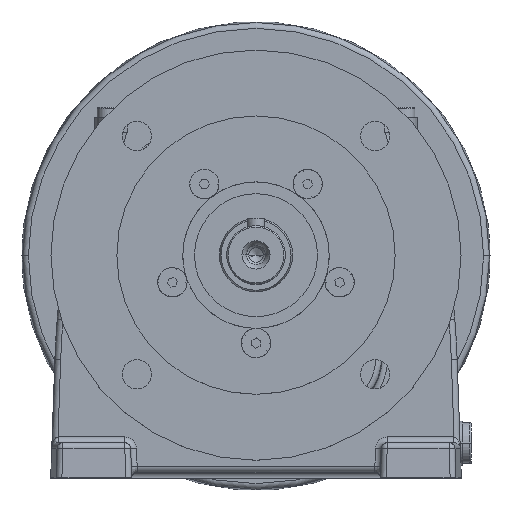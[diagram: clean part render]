
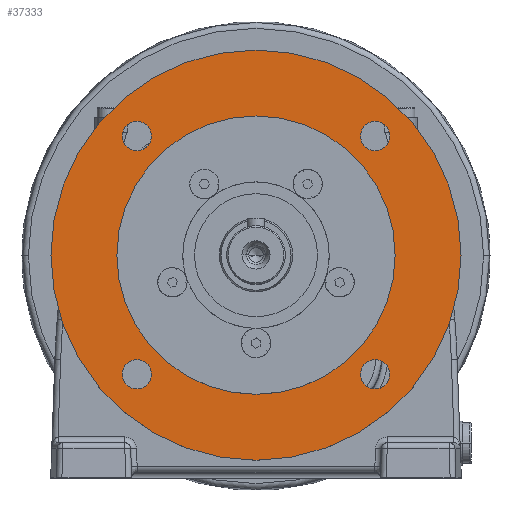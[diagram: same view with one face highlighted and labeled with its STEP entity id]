
A CAD part, top view. The second image highlights one B-rep face of the part: STEP entity #37333.
In plain terms, the highlighted planar face has unit normal (0, 0, 1).
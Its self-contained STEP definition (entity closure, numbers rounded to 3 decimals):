
#5707 = ORIENTED_EDGE ( 'NONE', *, *, #37260, .F. ) ;
#36534 = VERTEX_POINT ( 'NONE', #45484 ) ;
#36540 = EDGE_CURVE ( 'NONE', #36534, #36543, #45479, .T. ) ;
#36543 = VERTEX_POINT ( 'NONE', #45469 ) ;
#36746 = VERTEX_POINT ( 'NONE', #45898 ) ;
#36752 = EDGE_CURVE ( 'NONE', #36746, #36755, #45893, .T. ) ;
#36755 = VERTEX_POINT ( 'NONE', #45887 ) ;
#37068 = VERTEX_POINT ( 'NONE', #46262 ) ;
#37073 = EDGE_CURVE ( 'NONE', #37068, #37076, #46405, .T. ) ;
#37076 = VERTEX_POINT ( 'NONE', #46398 ) ;
#37229 = VERTEX_POINT ( 'NONE', #46480 ) ;
#37235 = EDGE_CURVE ( 'NONE', #37239, #37229, #46479, .T. ) ;
#37239 = VERTEX_POINT ( 'NONE', #46473 ) ;
#37260 = EDGE_CURVE ( 'NONE', #37264, #37267, #46519, .T. ) ;
#37264 = VERTEX_POINT ( 'NONE', #46574 ) ;
#37267 = VERTEX_POINT ( 'NONE', #46573 ) ;
#37287 = VERTEX_POINT ( 'NONE', #46561 ) ;
#37293 = EDGE_CURVE ( 'NONE', #37287, #37296, #46560, .T. ) ;
#37296 = VERTEX_POINT ( 'NONE', #46555 ) ;
#37306 = EDGE_LOOP ( 'NONE', ( #5707, #37485 ) ) ;
#37333 = ADVANCED_FACE ( 'NONE', ( #46596, #46595, #46594, #46593, #46592, #46591 ), #46575, .F. ) ;
#37338 = EDGE_LOOP ( 'NONE', ( #37341, #37347 ) ) ;
#37341 = ORIENTED_EDGE ( 'NONE', *, *, #37344, .F. ) ;
#37344 = EDGE_CURVE ( 'NONE', #36543, #36534, #46637, .T. ) ;
#37347 = ORIENTED_EDGE ( 'NONE', *, *, #36540, .F. ) ;
#37485 = ORIENTED_EDGE ( 'NONE', *, *, #37488, .F. ) ;
#37488 = EDGE_CURVE ( 'NONE', #37267, #37264, #46736, .T. ) ;
#37493 = EDGE_LOOP ( 'NONE', ( #37496, #37503 ) ) ;
#37496 = ORIENTED_EDGE ( 'NONE', *, *, #37499, .F. ) ;
#37499 = EDGE_CURVE ( 'NONE', #37296, #37287, #46731, .T. ) ;
#37503 = ORIENTED_EDGE ( 'NONE', *, *, #37293, .F. ) ;
#37534 = EDGE_LOOP ( 'NONE', ( #37536, #37542 ) ) ;
#37536 = ORIENTED_EDGE ( 'NONE', *, *, #37539, .F. ) ;
#37539 = EDGE_CURVE ( 'NONE', #36755, #36746, #46715, .T. ) ;
#37542 = ORIENTED_EDGE ( 'NONE', *, *, #36752, .F. ) ;
#37547 = EDGE_LOOP ( 'NONE', ( #37550, #37556 ) ) ;
#37550 = ORIENTED_EDGE ( 'NONE', *, *, #37553, .F. ) ;
#37553 = EDGE_CURVE ( 'NONE', #37076, #37068, #46709, .T. ) ;
#37556 = ORIENTED_EDGE ( 'NONE', *, *, #37073, .F. ) ;
#37561 = EDGE_LOOP ( 'NONE', ( #37564, #37567 ) ) ;
#37564 = ORIENTED_EDGE ( 'NONE', *, *, #37235, .T. ) ;
#37567 = ORIENTED_EDGE ( 'NONE', *, *, #37570, .T. ) ;
#37570 = EDGE_CURVE ( 'NONE', #37229, #37239, #46773, .T. ) ;
#45344 = DIRECTION ( 'NONE',  ( 0., 0., 1. ) ) ;
#45346 = CARTESIAN_POINT ( 'NONE',  ( -40.659, -40.659, -3. ) ) ;
#45469 = CARTESIAN_POINT ( 'NONE',  ( 45.659, 40.659, -3. ) ) ;
#45472 = DIRECTION ( 'NONE',  ( 1., 0., 0. ) ) ;
#45474 = DIRECTION ( 'NONE',  ( 0., 0., 1. ) ) ;
#45476 = CARTESIAN_POINT ( 'NONE',  ( 40.659, 40.659, -3. ) ) ;
#45477 = AXIS2_PLACEMENT_3D ( 'NONE', #45476, #45474, #45472 ) ;
#45479 = CIRCLE ( 'NONE', #45477, 5. ) ;
#45484 = CARTESIAN_POINT ( 'NONE',  ( 35.659, 40.659, -3. ) ) ;
#45849 = DIRECTION ( 'NONE',  ( 1., 0., 0. ) ) ;
#45887 = CARTESIAN_POINT ( 'NONE',  ( -35.659, 40.659, -3. ) ) ;
#45889 = DIRECTION ( 'NONE',  ( 1., 0., 0. ) ) ;
#45890 = DIRECTION ( 'NONE',  ( 0., 0., 1. ) ) ;
#45891 = CARTESIAN_POINT ( 'NONE',  ( -40.659, 40.659, -3. ) ) ;
#45892 = AXIS2_PLACEMENT_3D ( 'NONE', #45891, #45890, #45889 ) ;
#45893 = CIRCLE ( 'NONE', #45892, 5. ) ;
#45898 = CARTESIAN_POINT ( 'NONE',  ( -45.659, 40.659, -3. ) ) ;
#46262 = CARTESIAN_POINT ( 'NONE',  ( -45.659, -40.659, -3. ) ) ;
#46263 = CARTESIAN_POINT ( 'NONE',  ( -40.659, -40.659, -3. ) ) ;
#46398 = CARTESIAN_POINT ( 'NONE',  ( -35.659, -40.659, -3. ) ) ;
#46400 = DIRECTION ( 'NONE',  ( 1., 0., 0. ) ) ;
#46402 = DIRECTION ( 'NONE',  ( 0., 0., 1. ) ) ;
#46404 = AXIS2_PLACEMENT_3D ( 'NONE', #46263, #46402, #46400 ) ;
#46405 = CIRCLE ( 'NONE', #46404, 5. ) ;
#46473 = CARTESIAN_POINT ( 'NONE',  ( 70., 0., -3. ) ) ;
#46474 = DIRECTION ( 'NONE',  ( 1., 0., 0. ) ) ;
#46476 = DIRECTION ( 'NONE',  ( 0., 0., 1. ) ) ;
#46477 = CARTESIAN_POINT ( 'NONE',  ( 0., 0., -3. ) ) ;
#46478 = AXIS2_PLACEMENT_3D ( 'NONE', #46477, #46476, #46474 ) ;
#46479 = CIRCLE ( 'NONE', #46478, 70. ) ;
#46480 = CARTESIAN_POINT ( 'NONE',  ( -70., 0., -3. ) ) ;
#46516 = DIRECTION ( 'NONE',  ( 1., 0., 0. ) ) ;
#46517 = DIRECTION ( 'NONE',  ( 0., 0., 1. ) ) ;
#46518 = AXIS2_PLACEMENT_3D ( 'NONE', #46524, #46517, #46516 ) ;
#46519 = CIRCLE ( 'NONE', #46518, 47.5 ) ;
#46524 = CARTESIAN_POINT ( 'NONE',  ( 0., 0., -3. ) ) ;
#46555 = CARTESIAN_POINT ( 'NONE',  ( 45.659, -40.659, -3. ) ) ;
#46556 = DIRECTION ( 'NONE',  ( 1., 0., 0. ) ) ;
#46557 = DIRECTION ( 'NONE',  ( 0., 0., 1. ) ) ;
#46558 = CARTESIAN_POINT ( 'NONE',  ( 40.659, -40.659, -3. ) ) ;
#46559 = AXIS2_PLACEMENT_3D ( 'NONE', #46558, #46557, #46556 ) ;
#46560 = CIRCLE ( 'NONE', #46559, 5. ) ;
#46561 = CARTESIAN_POINT ( 'NONE',  ( 35.659, -40.659, -3. ) ) ;
#46573 = CARTESIAN_POINT ( 'NONE',  ( -47.5, 0., -3. ) ) ;
#46574 = CARTESIAN_POINT ( 'NONE',  ( 47.5, 0., -3. ) ) ;
#46575 = PLANE ( 'NONE',  #46642 ) ;
#46591 = FACE_BOUND ( 'NONE', #37493, .T. ) ;
#46592 = FACE_BOUND ( 'NONE', #37306, .T. ) ;
#46593 = FACE_OUTER_BOUND ( 'NONE', #37561, .T. ) ;
#46594 = FACE_BOUND ( 'NONE', #37547, .T. ) ;
#46595 = FACE_BOUND ( 'NONE', #37534, .T. ) ;
#46596 = FACE_BOUND ( 'NONE', #37338, .T. ) ;
#46633 = DIRECTION ( 'NONE',  ( 1., 0., 0. ) ) ;
#46634 = DIRECTION ( 'NONE',  ( 0., 0., 1. ) ) ;
#46635 = CARTESIAN_POINT ( 'NONE',  ( 40.659, 40.659, -3. ) ) ;
#46636 = AXIS2_PLACEMENT_3D ( 'NONE', #46635, #46634, #46633 ) ;
#46637 = CIRCLE ( 'NONE', #46636, 5. ) ;
#46639 = DIRECTION ( 'NONE',  ( -1., 0., 0. ) ) ;
#46640 = DIRECTION ( 'NONE',  ( 0., 0., -1. ) ) ;
#46641 = CARTESIAN_POINT ( 'NONE',  ( 0., 47.5, -3. ) ) ;
#46642 = AXIS2_PLACEMENT_3D ( 'NONE', #46641, #46640, #46639 ) ;
#46708 = AXIS2_PLACEMENT_3D ( 'NONE', #45346, #45344, #45849 ) ;
#46709 = CIRCLE ( 'NONE', #46708, 5. ) ;
#46711 = DIRECTION ( 'NONE',  ( 1., 0., 0. ) ) ;
#46712 = DIRECTION ( 'NONE',  ( 0., 0., 1. ) ) ;
#46713 = CARTESIAN_POINT ( 'NONE',  ( -40.659, 40.659, -3. ) ) ;
#46714 = AXIS2_PLACEMENT_3D ( 'NONE', #46713, #46712, #46711 ) ;
#46715 = CIRCLE ( 'NONE', #46714, 5. ) ;
#46727 = DIRECTION ( 'NONE',  ( 1., 0., 0. ) ) ;
#46728 = DIRECTION ( 'NONE',  ( 0., 0., 1. ) ) ;
#46729 = CARTESIAN_POINT ( 'NONE',  ( 40.659, -40.659, -3. ) ) ;
#46730 = AXIS2_PLACEMENT_3D ( 'NONE', #46729, #46728, #46727 ) ;
#46731 = CIRCLE ( 'NONE', #46730, 5. ) ;
#46732 = DIRECTION ( 'NONE',  ( 1., 0., 0. ) ) ;
#46733 = DIRECTION ( 'NONE',  ( 0., 0., 1. ) ) ;
#46734 = CARTESIAN_POINT ( 'NONE',  ( 0., 0., -3. ) ) ;
#46735 = AXIS2_PLACEMENT_3D ( 'NONE', #46734, #46733, #46732 ) ;
#46736 = CIRCLE ( 'NONE', #46735, 47.5 ) ;
#46769 = DIRECTION ( 'NONE',  ( 1., 0., 0. ) ) ;
#46770 = DIRECTION ( 'NONE',  ( 0., 0., 1. ) ) ;
#46771 = CARTESIAN_POINT ( 'NONE',  ( 0., 0., -3. ) ) ;
#46772 = AXIS2_PLACEMENT_3D ( 'NONE', #46771, #46770, #46769 ) ;
#46773 = CIRCLE ( 'NONE', #46772, 70. ) ;
